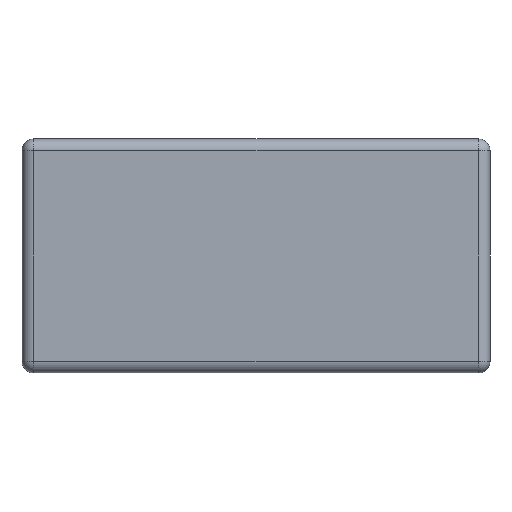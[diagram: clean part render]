
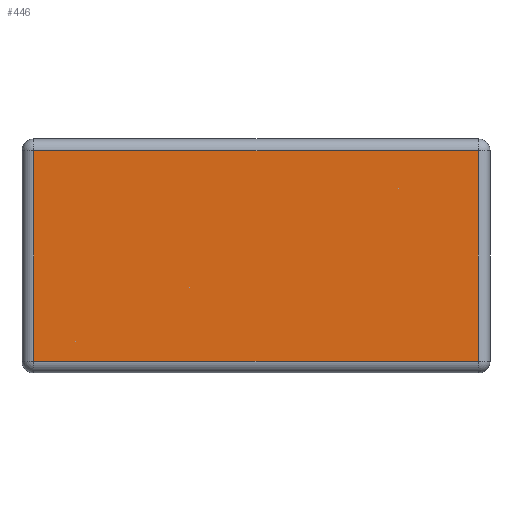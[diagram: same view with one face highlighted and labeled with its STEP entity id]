
A CAD part, front view. The second image highlights one B-rep face of the part: STEP entity #446.
In plain terms, the highlighted planar face has unit normal (0, -1, 0).
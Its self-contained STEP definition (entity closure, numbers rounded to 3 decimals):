
#25 = FACE_OUTER_BOUND ( 'NONE', #1034, .T. ) ;
#65 = CARTESIAN_POINT ( 'NONE',  ( 49.448, 0., 0. ) ) ;
#133 = LINE ( 'NONE', #1795, #1891 ) ;
#167 = VERTEX_POINT ( 'NONE', #1009 ) ;
#244 = LINE ( 'NONE', #65, #1995 ) ;
#381 = CARTESIAN_POINT ( 'NONE',  ( -26.552, 0., 0. ) ) ;
#391 = CARTESIAN_POINT ( 'NONE',  ( 0., 0., 0. ) ) ;
#446 = ADVANCED_FACE ( 'NONE', ( #25 ), #2089, .F. ) ;
#520 = VERTEX_POINT ( 'NONE', #1445 ) ;
#750 = DIRECTION ( 'NONE',  ( 0., 0., 1. ) ) ;
#819 = EDGE_CURVE ( 'NONE', #2209, #167, #244, .T. ) ;
#910 = EDGE_CURVE ( 'NONE', #167, #520, #133, .T. ) ;
#962 = ORIENTED_EDGE ( 'NONE', *, *, #2056, .T. ) ;
#1009 = CARTESIAN_POINT ( 'NONE',  ( 49.448, 0., 25.812 ) ) ;
#1034 = EDGE_LOOP ( 'NONE', ( #1142, #1217, #962, #2031 ) ) ;
#1065 = DIRECTION ( 'NONE',  ( 0., 0., 1. ) ) ;
#1089 = EDGE_CURVE ( 'NONE', #1943, #2209, #1971, .T. ) ;
#1142 = ORIENTED_EDGE ( 'NONE', *, *, #819, .T. ) ;
#1174 = CARTESIAN_POINT ( 'NONE',  ( 0., 0., -10.188 ) ) ;
#1181 = CARTESIAN_POINT ( 'NONE',  ( -26.552, 0., -10.188 ) ) ;
#1217 = ORIENTED_EDGE ( 'NONE', *, *, #910, .T. ) ;
#1277 = CARTESIAN_POINT ( 'NONE',  ( 49.448, 0., -10.188 ) ) ;
#1445 = CARTESIAN_POINT ( 'NONE',  ( -26.552, 0., 25.812 ) ) ;
#1524 = VECTOR ( 'NONE', #2034, 1000. ) ;
#1579 = DIRECTION ( 'NONE',  ( 0., 0., -1. ) ) ;
#1696 = LINE ( 'NONE', #381, #2141 ) ;
#1795 = CARTESIAN_POINT ( 'NONE',  ( 0., 0., 25.812 ) ) ;
#1804 = DIRECTION ( 'NONE',  ( -1., 0., 0. ) ) ;
#1891 = VECTOR ( 'NONE', #1804, 1000. ) ;
#1943 = VERTEX_POINT ( 'NONE', #1181 ) ;
#1971 = LINE ( 'NONE', #1174, #1524 ) ;
#1995 = VECTOR ( 'NONE', #750, 1000. ) ;
#2015 = AXIS2_PLACEMENT_3D ( 'NONE', #391, #2094, #1065 ) ;
#2031 = ORIENTED_EDGE ( 'NONE', *, *, #1089, .T. ) ;
#2034 = DIRECTION ( 'NONE',  ( 1., 0., 0. ) ) ;
#2056 = EDGE_CURVE ( 'NONE', #520, #1943, #1696, .T. ) ;
#2089 = PLANE ( 'NONE',  #2015 ) ;
#2094 = DIRECTION ( 'NONE',  ( 0., 1., 0. ) ) ;
#2141 = VECTOR ( 'NONE', #1579, 1000. ) ;
#2209 = VERTEX_POINT ( 'NONE', #1277 ) ;
